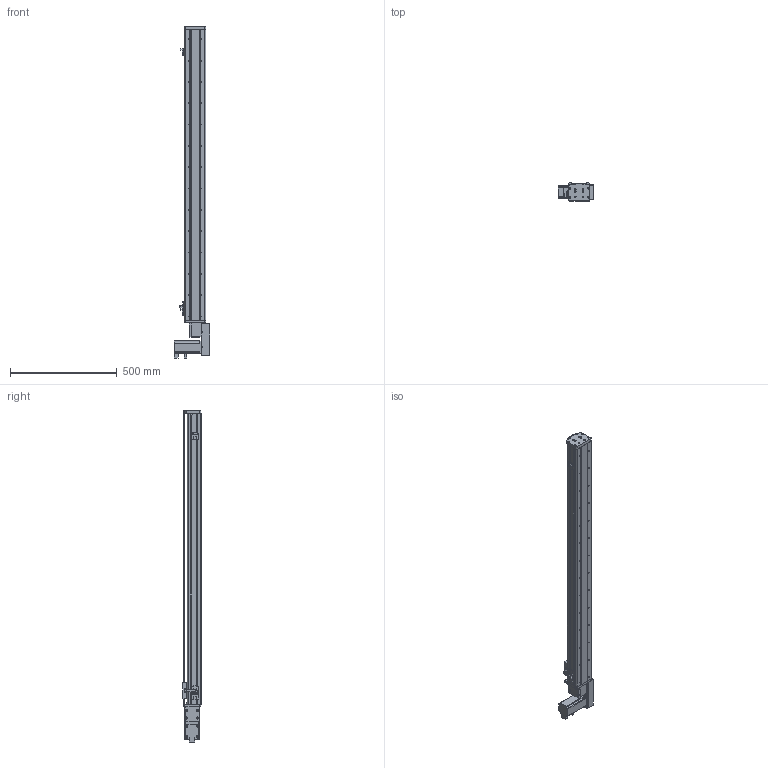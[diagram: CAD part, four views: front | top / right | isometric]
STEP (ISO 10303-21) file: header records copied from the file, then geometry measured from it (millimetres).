
FILE_DESCRIPTION (( 'STEP AP203' ), '1' );
FILE_NAME ('JDTN-100-P40-S1200-2RG2SJ.STEP', '2014-03-24T01:25:18', ( 'Winiori' ), ( 'Microsoft' ), 'SwSTEP 2.0', 'SolidWorks 2007', '' );
FILE_SCHEMA (( 'CONFIG_CONTROL_DESIGN' ));
Length unit declared in the file: millimetre
Products named in the file (1): JDTN-100-P40-S1200-2RG2SJ
Bounding box: 165 x 85.5 x 1556.5 mm (x, y, z)
Surface area: 786309.8 mm2 (no closed solid volume)
Topology: 0 solids, 33 shells, 524 faces, 2288 edges, 1774 vertices
Faces by surface type: plane 285, cylinder 237, cone 2
Entity records: 24294 total; most frequent: CARTESIAN_POINT 4679, DIRECTION 4275, ORIENTED_EDGE 3424, EDGE_CURVE 2288, VERTEX_POINT 1774, AXIS2_PLACEMENT_3D 1480, VECTOR 1315, LINE 1315
